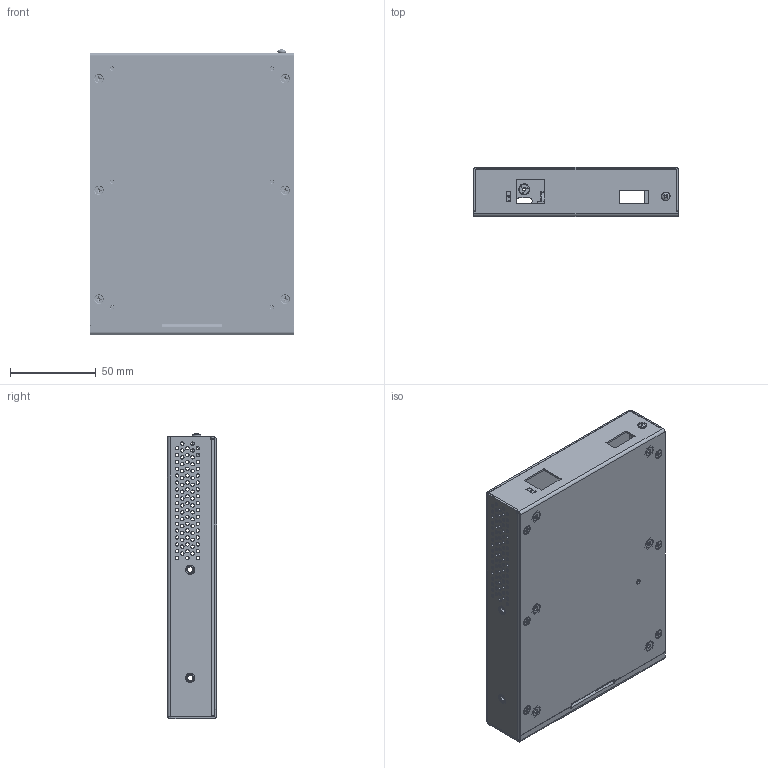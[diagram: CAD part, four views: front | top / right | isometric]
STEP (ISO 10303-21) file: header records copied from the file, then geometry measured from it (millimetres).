
FILE_DESCRIPTION (( 'STEP AP214' ), '1' );
FILE_NAME ('PBULD00331.STEP', '2026-01-15T14:24:41', ( '' ), ( '' ), 'SwSTEP 2.0', 'SolidWorks 2024', '' );
FILE_SCHEMA (( 'AUTOMOTIVE_DESIGN' ));
Length unit declared in the file: millimetre
Products named in the file (12): PBULD00331; PHRDW00272; PBULD00337_B.0; PHRDW00355; PHRDW00354; PBULD00336_B.0; PBULD00338_B.1; PBULD00335_B.0; PHRDW00088_92000A102; PHRDW00342; PHRDW00089_91698A240; PHRDW00310
Assembly tree (42 placements, depth 3):
  PBULD00331
    PBULD00338_B.1
      PBULD00337_B.0
      PHRDW00310  x6
      PHRDW00342
    PBULD00336_B.0
      PBULD00335_B.0
      PHRDW00354  x3
      PHRDW00355  x4
      PHRDW00342  x6
    PHRDW00272  x5
    PHRDW00088_92000A102  x7
    PHRDW00089_91698A240  x6
Bounding box: 119 x 28.67 x 166.08 mm (x, y, z)
Volume: 59007.3 mm3; surface area: 119371.1 mm2
Topology: 40 solids, 82 shells, 3357 faces, 9121 edges, 6019 vertices
Faces by surface type: plane 2144, cylinder 655, cone 347, bspline 183, torus 21, sphere 7
Full cylindrical faces by diameter (mm): 2 x170, 2.013 x7, 2.5 x6, 3 x1, 3.79 x7, 3.8 x7, 4.2 x3, 4.695 x7, 5.41 x10, 5.6 x7
Entity records: 37200 total; most frequent: CARTESIAN_POINT 9587, ORIENTED_EDGE 5384, DIRECTION 5345, EDGE_CURVE 2692, VERTEX_POINT 1896, AXIS2_PLACEMENT_3D 1836, EDGE_LOOP 1764, VECTOR 1673
